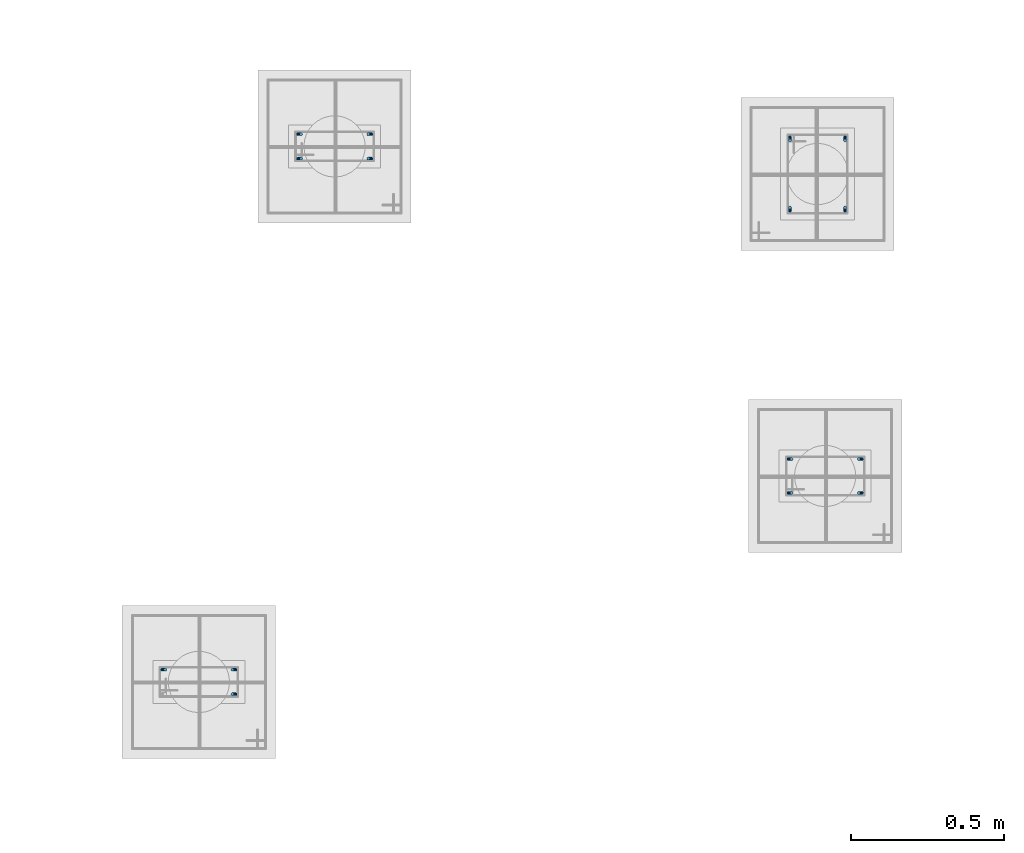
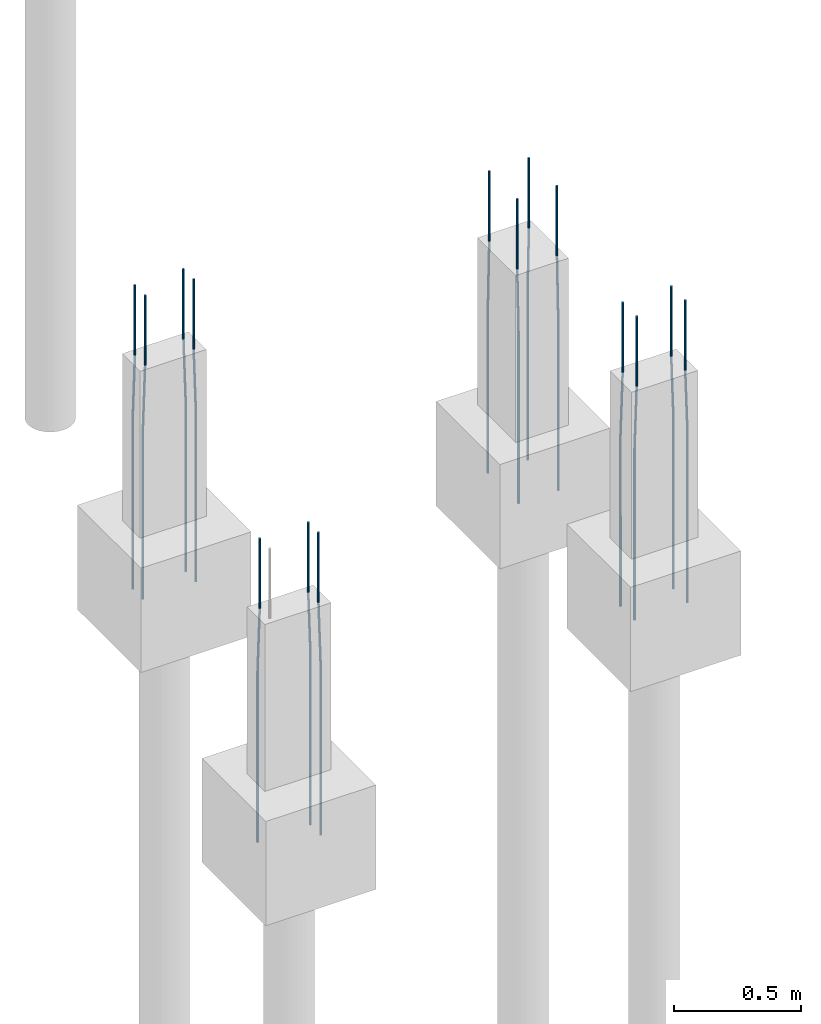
# One storey, part 29 of 119: 15 reinforcing bars.
"""IFC4 building model written with IfcOpenShell, lengths in centimetres."""

from ifc_helpers import new_model, entity, si_unit, derived_unit, frame, origin_with_axes, place, context, project, spatial, element, save


model = new_model("IFC4")

# Units and contexts
model_context = context("Model", 3, precision=1e-05, world=origin_with_axes(), identifier="Body")
ifc_project = project(units=[si_unit("LENGTHUNIT", "METRE", prefix="CENTI"), si_unit("VOLUMEUNIT", "CUBIC_METRE"), si_unit("AREAUNIT", "SQUARE_METRE"), si_unit("POWERUNIT", "WATT"), si_unit("LUMINOUSFLUXUNIT", "LUMEN"), si_unit("ELECTRICCURRENTUNIT", "AMPERE"), si_unit("PRESSUREUNIT", "PASCAL", prefix="KILO"), si_unit("MASSUNIT", "GRAM", prefix="KILO"), si_unit("PLANEANGLEUNIT", "RADIAN"), derived_unit("VOLUMETRICFLOWRATEUNIT", [(si_unit("LENGTHUNIT", "METRE"), 3), (si_unit("TIMEUNIT", "SECOND"), -1)])], contexts=[model_context])

# Site, building, storey
site_placement = place(None, frame((-4000.0, 0.0, 0.0), z_axis=(0.0, 0.0, 1.0), x_axis=(1.0, 0.0, 0.0)))
site = spatial("IfcSite", under=ifc_project, at=site_placement, Name="PADRÃO")
building_placement = place(site_placement, frame((0.0, 0.0, -14.0)))
building = spatial("IfcBuilding", under=site, at=building_placement, Name="CRECHE PRÉ-ESCOLA TIPO 2")
storey_placement = place(building_placement, origin_with_axes())
storey = spatial("IfcBuildingStorey", under=building, at=storey_placement, Name="FUNDAÇÃO", CompositionType="ELEMENT", Elevation=-14.0)

# Reinforcing bars
reinforcing_bar_1_placement = place(storey_placement, frame((2999.0, 1926.52, 33.3573001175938), z_axis=(0.0, 0.0, 1.0), x_axis=(1.0, 0.0, 0.0)))
element("IfcReinforcingBar", 1, at=reinforcing_bar_1_placement, inside=storey, Name="P91 - Longitudinal", BarLength=0.0, CrossSectionArea=7.853981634e-05, NominalDiameter=1.0, PredefinedType="MAIN", context=model_context, shape_type="AdvancedSweptSolid", body=[
    entity("IfcSweptDiskSolid", entity("IfcCompositeCurve", [entity("IfcCompositeCurveSegment", "CONTINUOUS", True, entity("IfcPolyline", [entity("IfcCartesianPoint", [0.5, 0.0, -145.357300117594]), entity("IfcCartesianPoint", [0.5, 0.0, -63.3573001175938])])), entity("IfcCompositeCurveSegment", "CONTINUOUS", True, entity("IfcPolyline", [entity("IfcCartesianPoint", [0.5, 0.0, -63.3573001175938]), entity("IfcCartesianPoint", [-0.5, 0.0, -33.3573001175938])])), entity("IfcCompositeCurveSegment", "CONTINUOUS", True, entity("IfcPolyline", [entity("IfcCartesianPoint", [-0.5, 0.0, -33.3573001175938]), entity("IfcCartesianPoint", [-0.5, 0.0, 0.0])]))], False), 0.5),
])
for number, where, z_axis, x_axis, name in (
    (2, (2976.0, 1918.52, 33.3573001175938), (0.0, 0.0, 1.0), (1.0, 0.0, 0.0), "P91 - Longitudinal"),
    (3, (2976.0, 1926.52, 33.3573001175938), (0.0, 0.0, 1.0), (1.0, 0.0, 0.0), "P91 - Longitudinal"),
):
    element("IfcReinforcingBar", number, at=place(storey_placement, frame(where, z_axis=z_axis, x_axis=x_axis)), inside=storey, Name=name, BarLength=0.0, CrossSectionArea=7.853981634e-05, NominalDiameter=1.0, PredefinedType="MAIN", context=model_context, shape_type="AdvancedSweptSolid", body=[
        entity("IfcSweptDiskSolid", entity("IfcCompositeCurve", [entity("IfcCompositeCurveSegment", "CONTINUOUS", True, entity("IfcPolyline", [entity("IfcCartesianPoint", [-0.5, 0.0, -145.357300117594]), entity("IfcCartesianPoint", [-0.5, 0.0, -63.3573001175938])])), entity("IfcCompositeCurveSegment", "CONTINUOUS", True, entity("IfcPolyline", [entity("IfcCartesianPoint", [-0.5, 0.0, -63.3573001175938]), entity("IfcCartesianPoint", [0.5, 0.0, -33.3573001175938])])), entity("IfcCompositeCurveSegment", "CONTINUOUS", True, entity("IfcPolyline", [entity("IfcCartesianPoint", [0.5, 0.0, -33.3573001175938]), entity("IfcCartesianPoint", [0.5, 0.0, 0.0])]))], False), 0.5),
    ])
reinforcing_bar_2_placement = place(storey_placement, frame((2999.0, 1918.52, 33.3573001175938), z_axis=(0.0, 0.0, 1.0), x_axis=(1.0, 0.0, 0.0)))
element("IfcReinforcingBar", 4, at=reinforcing_bar_2_placement, inside=storey, Name="P91 - Longitudinal", BarLength=0.0, CrossSectionArea=7.853981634e-05, NominalDiameter=1.0, PredefinedType="MAIN", context=model_context, shape_type="AdvancedSweptSolid", body=[
    entity("IfcSweptDiskSolid", entity("IfcCompositeCurve", [entity("IfcCompositeCurveSegment", "CONTINUOUS", True, entity("IfcPolyline", [entity("IfcCartesianPoint", [0.5, 0.0, -145.357300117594]), entity("IfcCartesianPoint", [0.5, 0.0, -63.3573001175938])])), entity("IfcCompositeCurveSegment", "CONTINUOUS", True, entity("IfcPolyline", [entity("IfcCartesianPoint", [0.5, 0.0, -63.3573001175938]), entity("IfcCartesianPoint", [-0.5, 0.0, -33.3573001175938])])), entity("IfcCompositeCurveSegment", "CONTINUOUS", True, entity("IfcPolyline", [entity("IfcCartesianPoint", [-0.5, 0.0, -33.3573001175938]), entity("IfcCartesianPoint", [-0.5, 0.0, 0.0])]))], False), 0.5),
])
for number, where, z_axis, x_axis, name in (
    (5, (3136.02, 1925.02, 33.3573001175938), (0.0, 0.0, 1.0), (1.0, 0.0, 0.0), "P92 - Longitudinal"),
    (6, (3154.02, 1925.02, 33.3573001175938), (0.0, 0.0, 1.0), (1.0, 0.0, 0.0), "P92 - Longitudinal"),
):
    element("IfcReinforcingBar", number, at=place(storey_placement, frame(where, z_axis=z_axis, x_axis=x_axis)), inside=storey, Name=name, BarLength=0.0, CrossSectionArea=7.853981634e-05, NominalDiameter=1.0, PredefinedType="MAIN", context=model_context, shape_type="AdvancedSweptSolid", body=[
        entity("IfcSweptDiskSolid", entity("IfcCompositeCurve", [entity("IfcCompositeCurveSegment", "CONTINUOUS", True, entity("IfcPolyline", [entity("IfcCartesianPoint", [0.0, 0.5, -145.357300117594]), entity("IfcCartesianPoint", [0.0, 0.5, -63.3573001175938])])), entity("IfcCompositeCurveSegment", "CONTINUOUS", True, entity("IfcPolyline", [entity("IfcCartesianPoint", [0.0, 0.5, -63.3573001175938]), entity("IfcCartesianPoint", [0.0, -0.5, -33.3573001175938])])), entity("IfcCompositeCurveSegment", "CONTINUOUS", True, entity("IfcPolyline", [entity("IfcCartesianPoint", [0.0, -0.5, -33.3573001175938]), entity("IfcCartesianPoint", [0.0, -0.5, 0.0])]))], False), 0.5),
    ])
for number, where, z_axis, x_axis, name in (
    (7, (3136.02, 1902.02, 33.3573001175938), (0.0, 0.0, 1.0), (1.0, 0.0, 0.0), "P92 - Longitudinal"),
    (8, (3154.02, 1902.02, 33.3573001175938), (0.0, 0.0, 1.0), (1.0, 0.0, 0.0), "P92 - Longitudinal"),
):
    element("IfcReinforcingBar", number, at=place(storey_placement, frame(where, z_axis=z_axis, x_axis=x_axis)), inside=storey, Name=name, BarLength=0.0, CrossSectionArea=7.853981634e-05, NominalDiameter=1.0, PredefinedType="MAIN", context=model_context, shape_type="AdvancedSweptSolid", body=[
        entity("IfcSweptDiskSolid", entity("IfcCompositeCurve", [entity("IfcCompositeCurveSegment", "CONTINUOUS", True, entity("IfcPolyline", [entity("IfcCartesianPoint", [0.0, -0.5, -145.357300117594]), entity("IfcCartesianPoint", [0.0, -0.5, -63.3573001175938])])), entity("IfcCompositeCurveSegment", "CONTINUOUS", True, entity("IfcPolyline", [entity("IfcCartesianPoint", [0.0, -0.5, -63.3573001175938]), entity("IfcCartesianPoint", [0.0, 0.5, -33.3573001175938])])), entity("IfcCompositeCurveSegment", "CONTINUOUS", True, entity("IfcPolyline", [entity("IfcCartesianPoint", [0.0, 0.5, -33.3573001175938]), entity("IfcCartesianPoint", [0.0, 0.5, 0.0])]))], False), 0.5),
    ])
reinforcing_bar_3_placement = place(storey_placement, frame((3159.0, 1820.52, 33.3573001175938), z_axis=(0.0, 0.0, 1.0), x_axis=(1.0, 0.0, 0.0)))
element("IfcReinforcingBar", 9, at=reinforcing_bar_3_placement, inside=storey, Name="P96 - Longitudinal", BarLength=0.0, CrossSectionArea=7.853981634e-05, NominalDiameter=1.0, PredefinedType="MAIN", context=model_context, shape_type="AdvancedSweptSolid", body=[
    entity("IfcSweptDiskSolid", entity("IfcCompositeCurve", [entity("IfcCompositeCurveSegment", "CONTINUOUS", True, entity("IfcPolyline", [entity("IfcCartesianPoint", [0.5, 0.0, -145.357300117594]), entity("IfcCartesianPoint", [0.5, 0.0, -63.3573001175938])])), entity("IfcCompositeCurveSegment", "CONTINUOUS", True, entity("IfcPolyline", [entity("IfcCartesianPoint", [0.5, 0.0, -63.3573001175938]), entity("IfcCartesianPoint", [-0.5, 0.0, -33.3573001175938])])), entity("IfcCompositeCurveSegment", "CONTINUOUS", True, entity("IfcPolyline", [entity("IfcCartesianPoint", [-0.5, 0.0, -33.3573001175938]), entity("IfcCartesianPoint", [-0.5, 0.0, 0.0])]))], False), 0.5),
])
for number, where, z_axis, x_axis, name in (
    (10, (3136.0, 1809.52, 33.3573001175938), (0.0, 0.0, 1.0), (1.0, 0.0, 0.0), "P96 - Longitudinal"),
    (11, (3136.0, 1820.52, 33.3573001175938), (0.0, 0.0, 1.0), (1.0, 0.0, 0.0), "P96 - Longitudinal"),
):
    element("IfcReinforcingBar", number, at=place(storey_placement, frame(where, z_axis=z_axis, x_axis=x_axis)), inside=storey, Name=name, BarLength=0.0, CrossSectionArea=7.853981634e-05, NominalDiameter=1.0, PredefinedType="MAIN", context=model_context, shape_type="AdvancedSweptSolid", body=[
        entity("IfcSweptDiskSolid", entity("IfcCompositeCurve", [entity("IfcCompositeCurveSegment", "CONTINUOUS", True, entity("IfcPolyline", [entity("IfcCartesianPoint", [-0.5, 0.0, -145.357300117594]), entity("IfcCartesianPoint", [-0.5, 0.0, -63.3573001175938])])), entity("IfcCompositeCurveSegment", "CONTINUOUS", True, entity("IfcPolyline", [entity("IfcCartesianPoint", [-0.5, 0.0, -63.3573001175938]), entity("IfcCartesianPoint", [0.5, 0.0, -33.3573001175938])])), entity("IfcCompositeCurveSegment", "CONTINUOUS", True, entity("IfcPolyline", [entity("IfcCartesianPoint", [0.5, 0.0, -33.3573001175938]), entity("IfcCartesianPoint", [0.5, 0.0, 0.0])]))], False), 0.5),
    ])
for number, where, z_axis, x_axis, name in (
    (12, (3159.0, 1809.52, 33.3573001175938), (0.0, 0.0, 1.0), (1.0, 0.0, 0.0), "P96 - Longitudinal"),
    (13, (2954.74, 1751.84, 33.3573001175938), (0.0, 0.0, 1.0), (1.0, 0.0, 0.0), "P99 - Longitudinal"),
    (14, (2954.74, 1743.84, 33.3573001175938), (0.0, 0.0, 1.0), (1.0, 0.0, 0.0), "P99 - Longitudinal"),
):
    element("IfcReinforcingBar", number, at=place(storey_placement, frame(where, z_axis=z_axis, x_axis=x_axis)), inside=storey, Name=name, BarLength=0.0, CrossSectionArea=7.853981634e-05, NominalDiameter=1.0, PredefinedType="MAIN", context=model_context, shape_type="AdvancedSweptSolid", body=[
        entity("IfcSweptDiskSolid", entity("IfcCompositeCurve", [entity("IfcCompositeCurveSegment", "CONTINUOUS", True, entity("IfcPolyline", [entity("IfcCartesianPoint", [0.5, 0.0, -145.357300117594]), entity("IfcCartesianPoint", [0.5, 0.0, -63.3573001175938])])), entity("IfcCompositeCurveSegment", "CONTINUOUS", True, entity("IfcPolyline", [entity("IfcCartesianPoint", [0.5, 0.0, -63.3573001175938]), entity("IfcCartesianPoint", [-0.5, 0.0, -33.3573001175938])])), entity("IfcCompositeCurveSegment", "CONTINUOUS", True, entity("IfcPolyline", [entity("IfcCartesianPoint", [-0.5, 0.0, -33.3573001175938]), entity("IfcCartesianPoint", [-0.5, 0.0, 0.0])]))], False), 0.5),
    ])
reinforcing_bar_4_placement = place(storey_placement, frame((2931.74, 1751.84, 33.3573001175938), z_axis=(0.0, 0.0, 1.0), x_axis=(1.0, 0.0, 0.0)))
element("IfcReinforcingBar", 15, at=reinforcing_bar_4_placement, inside=storey, Name="P99 - Longitudinal", BarLength=0.0, CrossSectionArea=7.853981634e-05, NominalDiameter=1.0, PredefinedType="MAIN", context=model_context, shape_type="AdvancedSweptSolid", body=[
    entity("IfcSweptDiskSolid", entity("IfcCompositeCurve", [entity("IfcCompositeCurveSegment", "CONTINUOUS", True, entity("IfcPolyline", [entity("IfcCartesianPoint", [-0.5, 0.0, -145.357300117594]), entity("IfcCartesianPoint", [-0.5, 0.0, -63.3573001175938])])), entity("IfcCompositeCurveSegment", "CONTINUOUS", True, entity("IfcPolyline", [entity("IfcCartesianPoint", [-0.5, 0.0, -63.3573001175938]), entity("IfcCartesianPoint", [0.5, 0.0, -33.3573001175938])])), entity("IfcCompositeCurveSegment", "CONTINUOUS", True, entity("IfcPolyline", [entity("IfcCartesianPoint", [0.5, 0.0, -33.3573001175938]), entity("IfcCartesianPoint", [0.5, 0.0, 0.0])]))], False), 0.5),
])

save(model, "model.ifc")
